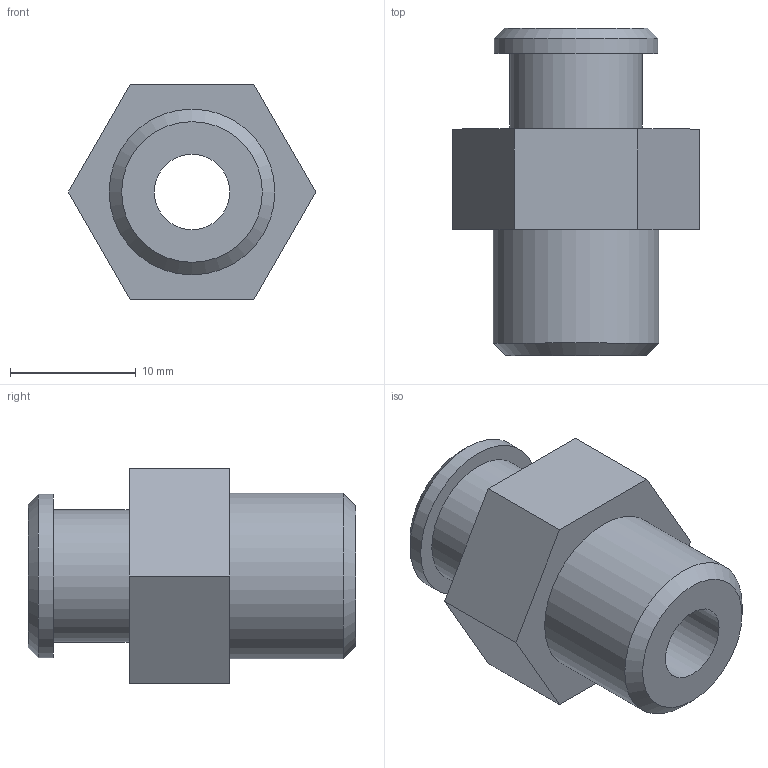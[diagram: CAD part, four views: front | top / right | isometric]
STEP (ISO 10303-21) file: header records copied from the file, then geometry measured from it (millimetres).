
FILE_DESCRIPTION((''),'2;1');
FILE_NAME('W:\Technik\Konstruktion\CAD-Daten\Vakuumsauger\270_\270.213\270.213.stp','2010-03-10T12:15:21',('MOswald'),(''),'Autodesk Inventor 2009','Autodesk Inventor 2009','');
FILE_SCHEMA(('AUTOMOTIVE_DESIGN { 1 0 10303 214 1 1 1 1 }'));
Length unit declared in the file: millimetre
Products named in the file (1): 270.213
Bounding box: 19.63 x 26 x 17 mm (x, y, z)
Volume: 3380.2 mm3; surface area: 2145 mm2
Topology: 1 solids, 1 shells, 17 faces, 35 edges, 23 vertices
Faces by surface type: plane 11, cylinder 4, cone 2
Full cylindrical faces by diameter (mm): 6 x1, 10.5 x1, 13 x1, 13.16 x1
Entity records: 452 total; most frequent: DIRECTION 74, CARTESIAN_POINT 68, ORIENTED_EDGE 56, AXIS2_PLACEMENT_3D 28, EDGE_CURVE 28, EDGE_LOOP 28, VERTEX_POINT 22, VECTOR 18
